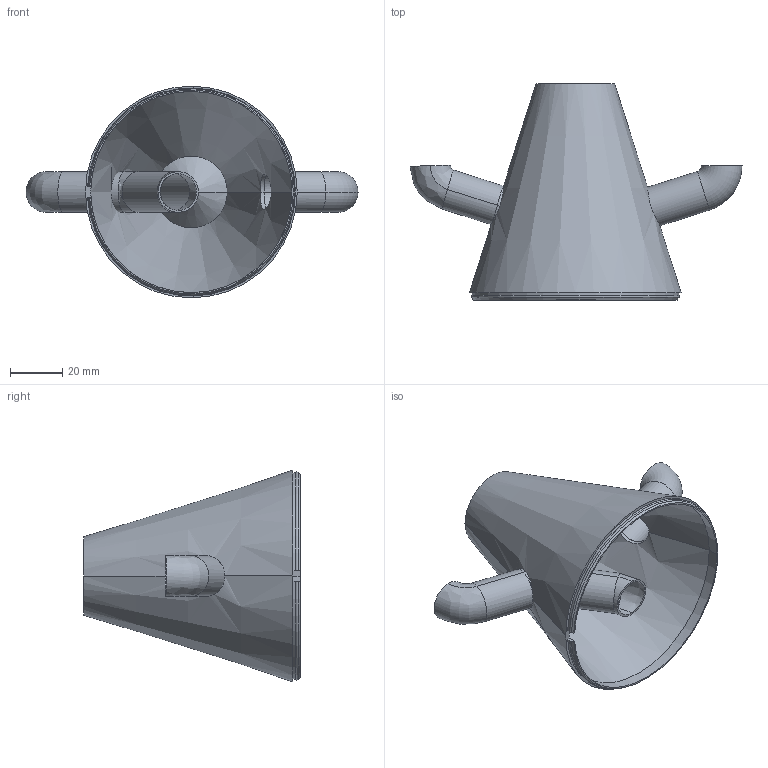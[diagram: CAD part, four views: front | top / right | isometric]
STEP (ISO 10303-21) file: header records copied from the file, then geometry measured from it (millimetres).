
FILE_DESCRIPTION (( 'STEP AP203' ), '1' );
FILE_NAME ('Konus.STEP', '2020-12-03T12:42:36', ( '' ), ( '' ), 'SwSTEP 2.0', 'SolidWorks 2020', '' );
FILE_SCHEMA (( 'CONFIG_CONTROL_DESIGN' ));
Length unit declared in the file: millimetre
Products named in the file (1): Konus
Bounding box: 127 x 82.8 x 81 mm (x, y, z)
Volume: 26241.2 mm3; surface area: 41383.7 mm2
Topology: 1 solids, 1 shells, 60 faces, 141 edges, 80 vertices
Faces by surface type: bspline 27, cone 11, cylinder 9, plane 8, torus 5
Entity records: 3038 total; most frequent: CARTESIAN_POINT 1789, ORIENTED_EDGE 274, DIRECTION 208, EDGE_CURVE 137, AXIS2_PLACEMENT_3D 89, VERTEX_POINT 80, EDGE_LOOP 65, ADVANCED_FACE 60
